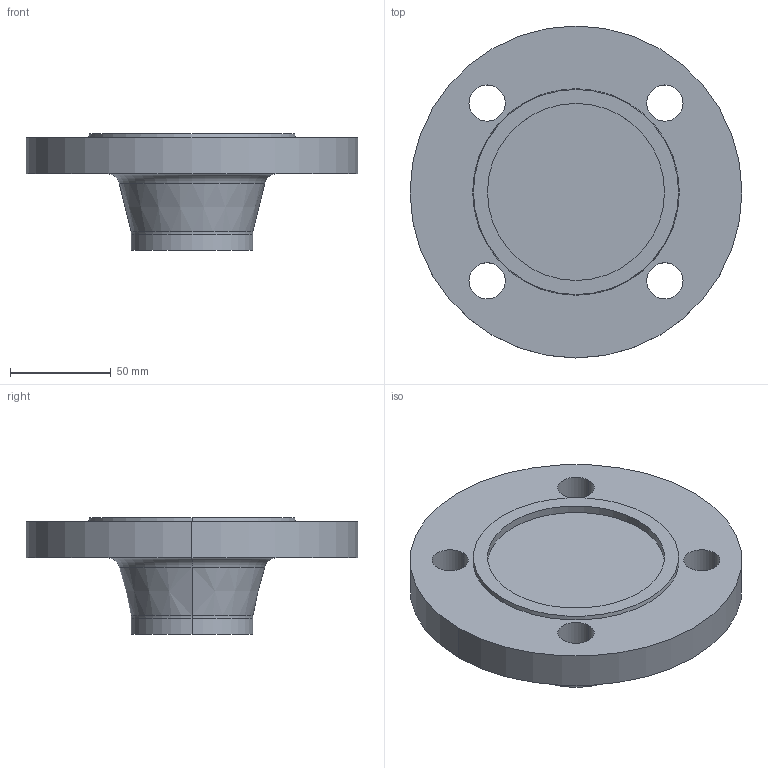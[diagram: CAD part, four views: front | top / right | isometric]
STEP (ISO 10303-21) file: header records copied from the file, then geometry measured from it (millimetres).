
FILE_DESCRIPTION (( 'STEP AP214' ), '1' );
FILE_NAME ('PN40 DN50 Type 21(ii) - Type F Face.STEP', '2018-12-30T03:18:27', ( '' ), ( '' ), 'SwSTEP 2.0', 'SolidWorks 2019', '' );
FILE_SCHEMA (( 'AUTOMOTIVE_DESIGN' ));
Length unit declared in the file: millimetre
Products named in the file (1): PN40 DN50 Type 21(ii) - Type F Face
Bounding box: 165 x 165 x 58 mm (x, y, z)
Volume: 489598.2 mm3; surface area: 61974.5 mm2
Topology: 1 solids, 1 shells, 27 faces, 60 edges, 38 vertices
Faces by surface type: cylinder 14, plane 5, torus 4, cone 4
Entity records: 818 total; most frequent: DIRECTION 158, CARTESIAN_POINT 126, ORIENTED_EDGE 120, AXIS2_PLACEMENT_3D 70, EDGE_CURVE 60, CIRCLE 42, VERTEX_POINT 38, EDGE_LOOP 38
